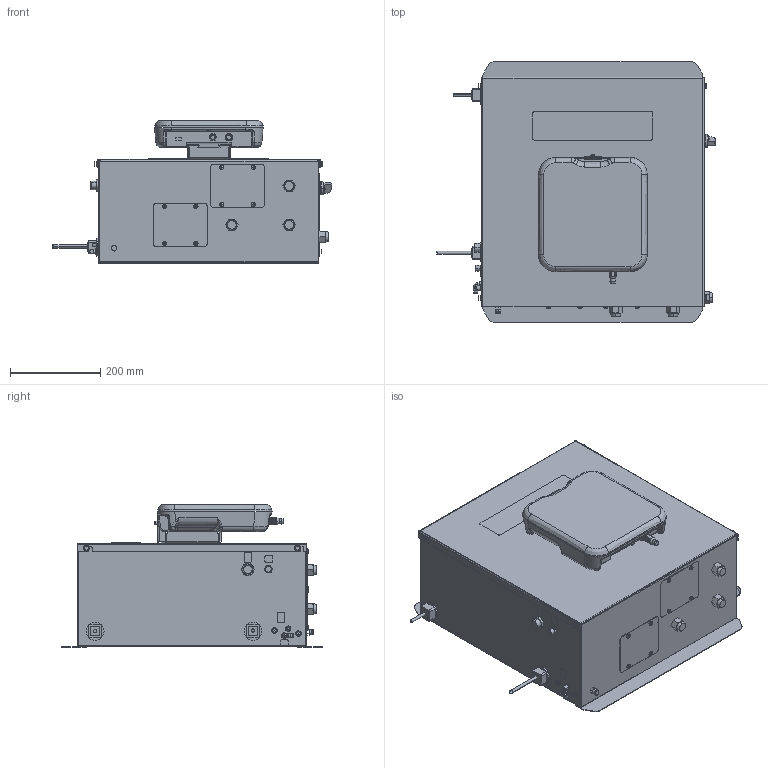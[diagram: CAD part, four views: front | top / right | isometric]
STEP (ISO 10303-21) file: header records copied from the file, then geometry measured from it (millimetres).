
FILE_DESCRIPTION((''),'2;1');
FILE_NAME('MC0500-EN-J_PRT','2023-11-07T14:41:06',('qtmwp1'),(''),'CREO PARAMETRIC BY PTC INC, 2021072','CREO PARAMETRIC BY PTC INC, 2021072','');
FILE_SCHEMA(('CONFIG_CONTROL_DESIGN'));
Length unit declared in the file: inch
Products named in the file (1): MC0500-EN-J_PRT
Bounding box: 621.1 x 578.1 x 316.74 mm (x, y, z)
Surface area: 1685173.6 mm2 (no closed solid volume)
Topology: 0 solids, 136 shells, 914 faces, 3427 edges, 2535 vertices
Faces by surface type: plane 417, cylinder 266, bspline 103, cone 84, torus 38, sphere 6
Entity records: 42631 total; most frequent: CARTESIAN_POINT 16600, DIRECTION 5022, ORIENTED_EDGE 4779, EDGE_CURVE 3425, VERTEX_POINT 2535, AXIS2_PLACEMENT_3D 1841, VECTOR 1340, LINE 1340
